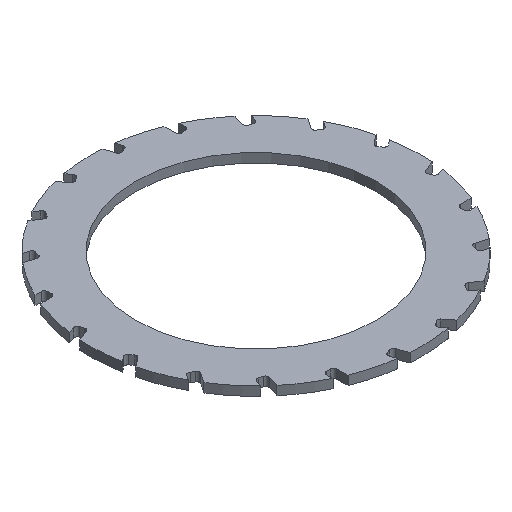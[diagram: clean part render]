
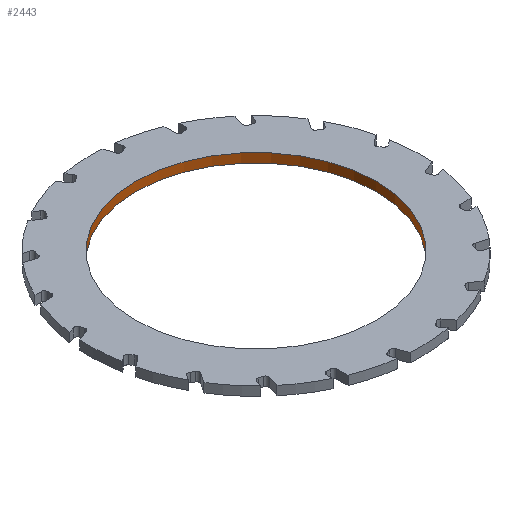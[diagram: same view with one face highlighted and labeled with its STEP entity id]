
A CAD part, isometric view. The second image highlights one B-rep face of the part: STEP entity #2443.
In plain terms, the highlighted cylindrical face has radius 40 mm (diameter 80 mm), a full revolution.
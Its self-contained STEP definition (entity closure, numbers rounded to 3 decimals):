
#199=FACE_OUTER_BOUND('',#324,.T.);
#324=EDGE_LOOP('',(#2250,#2251,#2252,#2253));
#567=LINE('',#4164,#808);
#808=VECTOR('',#3433,40.);
#871=CIRCLE('',#2528,40.);
#930=CIRCLE('',#2594,40.);
#1057=VERTEX_POINT('',#3702);
#1172=VERTEX_POINT('',#3947);
#1304=EDGE_CURVE('',#1057,#1057,#871,.T.);
#1427=EDGE_CURVE('',#1172,#1172,#930,.T.);
#1535=EDGE_CURVE('',#1057,#1172,#567,.T.);
#2250=ORIENTED_EDGE('',*,*,#1304,.F.);
#2251=ORIENTED_EDGE('',*,*,#1535,.T.);
#2252=ORIENTED_EDGE('',*,*,#1427,.T.);
#2253=ORIENTED_EDGE('',*,*,#1535,.F.);
#2321=CYLINDRICAL_SURFACE('',#2702,40.);
#2443=ADVANCED_FACE('',(#199),#2321,.F.);
#2528=AXIS2_PLACEMENT_3D('',#3703,#2912,#2913);
#2594=AXIS2_PLACEMENT_3D('',#3948,#3108,#3109);
#2702=AXIS2_PLACEMENT_3D('',#4163,#3431,#3432);
#2912=DIRECTION('center_axis',(0.,0.,-1.));
#2913=DIRECTION('ref_axis',(1.,0.,0.));
#3108=DIRECTION('center_axis',(0.,0.,-1.));
#3109=DIRECTION('ref_axis',(1.,0.,0.));
#3431=DIRECTION('center_axis',(0.,0.,1.));
#3432=DIRECTION('ref_axis',(1.,0.,0.));
#3433=DIRECTION('',(0.,0.,-1.));
#3702=CARTESIAN_POINT('',(-155.,-440.,3.));
#3703=CARTESIAN_POINT('Origin',(-115.,-440.,3.));
#3947=CARTESIAN_POINT('',(-155.,-440.,0.));
#3948=CARTESIAN_POINT('Origin',(-115.,-440.,0.));
#4163=CARTESIAN_POINT('Origin',(-115.,-440.,0.));
#4164=CARTESIAN_POINT('',(-155.,-440.,0.));
